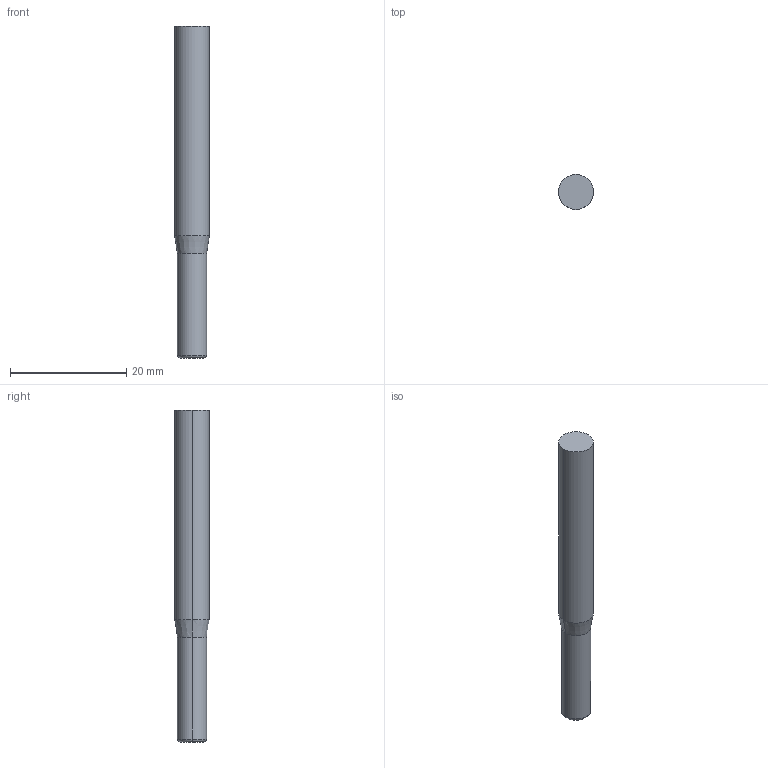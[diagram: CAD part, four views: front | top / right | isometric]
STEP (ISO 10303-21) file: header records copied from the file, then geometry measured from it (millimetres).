
FILE_DESCRIPTION(('STEP AP214'),'1');
FILE_NAME('cctmp_7CF55265-7657-4940-B96E-90255996ADEA_2020_10_01_07_21_41_0131..stp','2020-10-01T05:21:41',('Meusburger Georg GmbH & Co KG'),('CADClick - www.CADClick.com'),'Spatial InterOp 3D',' ','unknown authorization');
FILE_SCHEMA(('AUTOMOTIVE_DESIGN { 1 0 10303 214 1 1 1 1 }'));
Length unit declared in the file: millimetre
Products named in the file (1): WZF17576_5_0.5
Bounding box: 6 x 6 x 57 mm (x, y, z)
Volume: 1442 mm3; surface area: 1058.3 mm2
Topology: 1 solids, 1 shells, 10 faces, 18 edges, 10 vertices
Faces by surface type: cylinder 4, cone 2, torus 2, plane 2
Entity records: 350 total; most frequent: DIRECTION 52, CARTESIAN_POINT 39, ORIENTED_EDGE 36, AXIS2_PLACEMENT_3D 23, EDGE_CURVE 18, CIRCLE 12, STYLED_ITEM 11, PRESENTATION_STYLE_ASSIGNMENT 11
